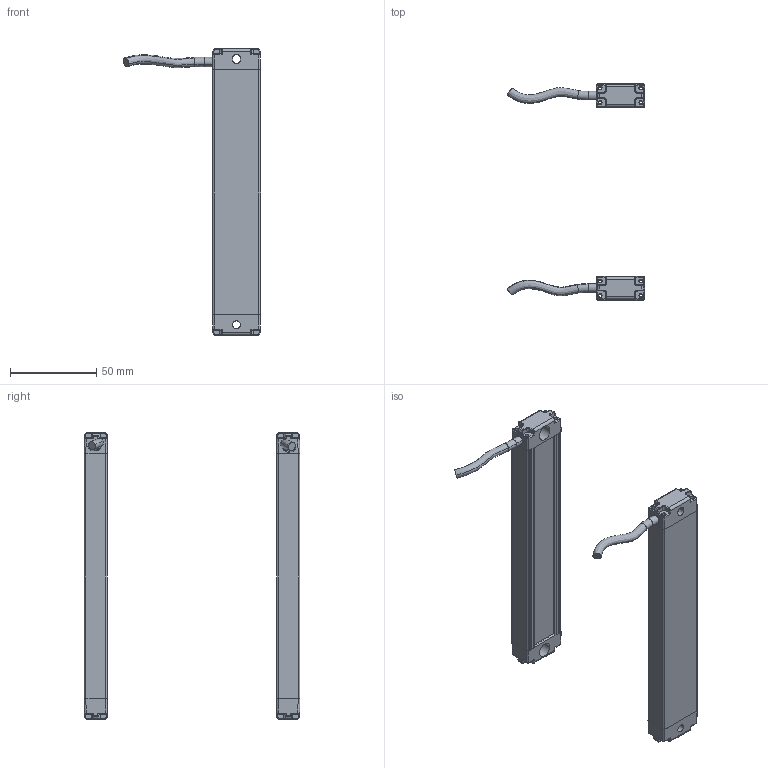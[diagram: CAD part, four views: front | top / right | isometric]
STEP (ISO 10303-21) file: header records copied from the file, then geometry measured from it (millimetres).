
FILE_DESCRIPTION(/* description */ (''),/* implementation_level */ '2;1');
FILE_NAME(/* name */ '1410(13X28W).stp',/* time_stamp */ '2021-03-03T10:50:14+08:00',/* author */ (''),/* organization */ (''),/* preprocessor_version */ 'ST-DEVELOPER v16',/* originating_system */ 'SIEMENS PLM Software NX 10.0',/* authorisation */ '');
FILE_SCHEMA (('AP203_CONFIGURATION_CONTROLLED_3D_DESIGN_OF_MECHANICAL_PARTS_AND_ASSEMBLIES_MIM_LF { 1 0 10303 403 2 1 2}'));
Length unit declared in the file: millimetre
Products named in the file (1): Admi220C8EB7bolr
Bounding box: 79.6 x 125.02 x 166 mm (x, y, z)
Volume: 51763.7 mm3; surface area: 67898.1 mm2
Topology: 10 solids, 10 shells, 760 faces, 2150 edges, 1419 vertices
Faces by surface type: plane 356, cylinder 312, torus 52, bspline 40
Entity records: 28287 total; most frequent: CARTESIAN_POINT 8751, ORIENTED_EDGE 4300, DIRECTION 3785, EDGE_CURVE 2150, VERTEX_POINT 1419, AXIS2_PLACEMENT_3D 1285, LINE 1215, VECTOR 1215
